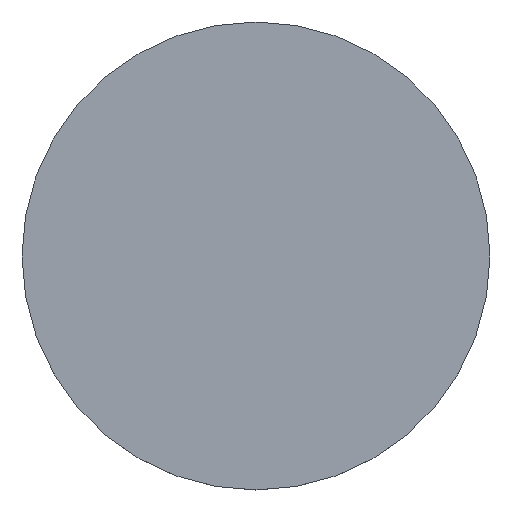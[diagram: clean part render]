
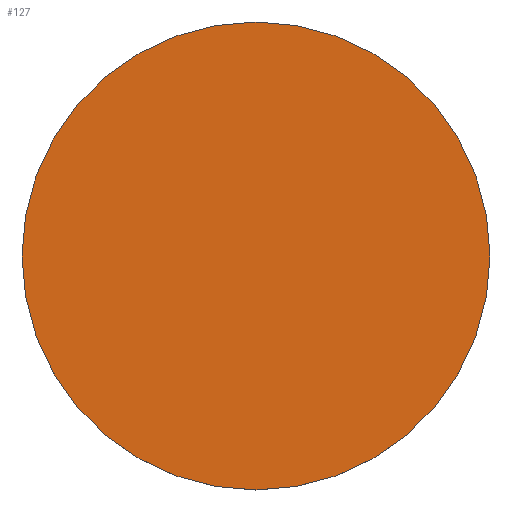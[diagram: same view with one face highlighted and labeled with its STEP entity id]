
A CAD part, top view. The second image highlights one B-rep face of the part: STEP entity #127.
In plain terms, the highlighted planar face has unit normal (0, 0, 1).
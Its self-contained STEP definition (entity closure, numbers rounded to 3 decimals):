
#42 = VERTEX_POINT('',#43);
#43 = CARTESIAN_POINT('',(250.,0.,18.));
#50 = CYLINDRICAL_SURFACE('',#51,250.);
#51 = AXIS2_PLACEMENT_3D('',#52,#53,#54);
#52 = CARTESIAN_POINT('',(0.,0.,0.));
#53 = DIRECTION('',(-0.,-0.,-1.));
#54 = DIRECTION('',(1.,0.,0.));
#69 = EDGE_CURVE('',#42,#42,#70,.T.);
#70 = SURFACE_CURVE('',#71,(#76,#83),.PCURVE_S1.);
#71 = CIRCLE('',#72,250.);
#72 = AXIS2_PLACEMENT_3D('',#73,#74,#75);
#73 = CARTESIAN_POINT('',(0.,0.,18.));
#74 = DIRECTION('',(0.,0.,1.));
#75 = DIRECTION('',(1.,0.,0.));
#76 = PCURVE('',#50,#77);
#77 = DEFINITIONAL_REPRESENTATION('',(#78),#82);
#78 = LINE('',#79,#80);
#79 = CARTESIAN_POINT('',(-0.,-18.));
#80 = VECTOR('',#81,1.);
#81 = DIRECTION('',(-1.,0.));
#82 = ( GEOMETRIC_REPRESENTATION_CONTEXT(2) 
PARAMETRIC_REPRESENTATION_CONTEXT() REPRESENTATION_CONTEXT('2D SPACE',''
  ) );
#83 = PCURVE('',#84,#89);
#84 = PLANE('',#85);
#85 = AXIS2_PLACEMENT_3D('',#86,#87,#88);
#86 = CARTESIAN_POINT('',(0.,0.,18.));
#87 = DIRECTION('',(0.,0.,1.));
#88 = DIRECTION('',(1.,0.,-0.));
#89 = DEFINITIONAL_REPRESENTATION('',(#90),#94);
#90 = CIRCLE('',#91,250.);
#91 = AXIS2_PLACEMENT_2D('',#92,#93);
#92 = CARTESIAN_POINT('',(0.,0.));
#93 = DIRECTION('',(1.,0.));
#94 = ( GEOMETRIC_REPRESENTATION_CONTEXT(2) 
PARAMETRIC_REPRESENTATION_CONTEXT() REPRESENTATION_CONTEXT('2D SPACE',''
  ) );
#127 = ADVANCED_FACE('',(#128),#84,.T.);
#128 = FACE_BOUND('',#129,.T.);
#129 = EDGE_LOOP('',(#130));
#130 = ORIENTED_EDGE('',*,*,#69,.T.);
